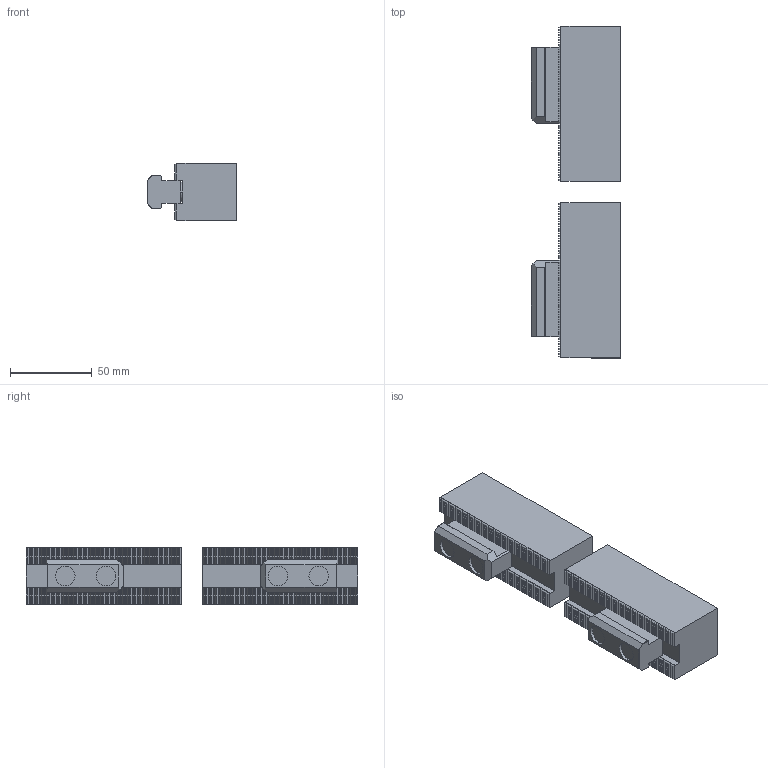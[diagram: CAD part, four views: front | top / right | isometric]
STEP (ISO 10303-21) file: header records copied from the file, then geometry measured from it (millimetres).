
FILE_DESCRIPTION (( 'STEP AP214' ), '1' );
FILE_NAME ('MLT08_61P246075-6_OC.STEP', '2020-04-01T08:31:23', ( '' ), ( '' ), 'SwSTEP 2.0', 'SolidWorks 2017', '' );
FILE_SCHEMA (( 'AUTOMOTIVE_DESIGN' ));
Length unit declared in the file: millimetre
Products named in the file (5): MLT08_BASE^61P245485_MLT08_ASSY; B傾僫僣僉 M12亊30_1; 61P417260 TNUT_ﾃﾞﾌｫﾙﾄ（簡易モデル）; 61P314548-4_ソフトジョー; MLT08_61P246075-6_OC
Assembly tree (9 placements, depth 2):
  MLT08_61P246075-6_OC
    61P314548-4_ソフトジョー  x2
    61P417260 TNUT_ﾃﾞﾌｫﾙﾄ（簡易モデル）  x2
    B傾僫僣僉 M12亊30_1  x4
    MLT08_BASE^61P245485_MLT08_ASSY
Bounding box: 54.7 x 202.97 x 35 mm (x, y, z)
Volume: 250452.1 mm3; surface area: 63136.2 mm2
Topology: 8 solids, 8 shells, 940 faces, 2716 edges, 1804 vertices
Faces by surface type: plane 880, cylinder 44, cone 16
Entity records: 85378 total; most frequent: CARTESIAN_POINT 15675, ORIENTED_EDGE 10367, DIRECTION 9216, EDGE_CURVE 5188, VECTOR 4268, LINE 4268, VERTEX_POINT 3407, AXIS2_PLACEMENT_3D 2474
